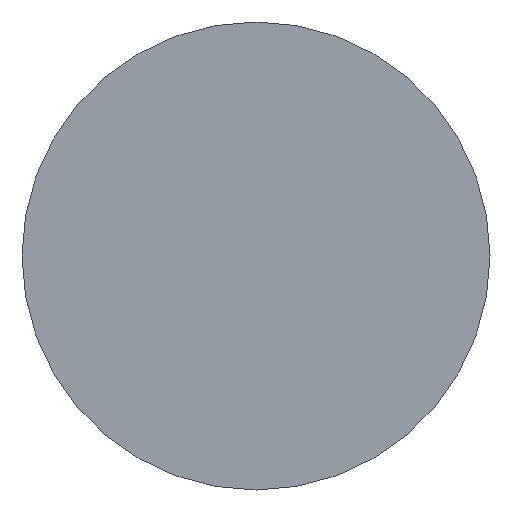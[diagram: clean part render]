
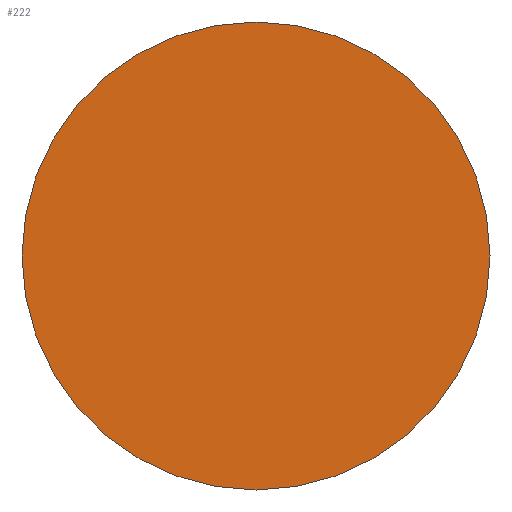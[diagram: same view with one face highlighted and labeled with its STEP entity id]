
A CAD part, left-side view. The second image highlights one B-rep face of the part: STEP entity #222.
In plain terms, the highlighted planar face has unit normal (-1, 0, 0).
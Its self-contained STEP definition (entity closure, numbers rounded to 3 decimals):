
#7 = EDGE_LOOP ( 'NONE', ( #125, #148 ) ) ;
#22 = VERTEX_POINT ( 'NONE', #208 ) ;
#27 = DIRECTION ( 'NONE',  ( 0., -1., 0. ) ) ;
#50 = DIRECTION ( 'NONE',  ( 1., 0., 0. ) ) ;
#58 = PLANE ( 'NONE',  #171 ) ;
#74 = AXIS2_PLACEMENT_3D ( 'NONE', #80, #163, #200 ) ;
#80 = CARTESIAN_POINT ( 'NONE',  ( 0., 0., 0. ) ) ;
#97 = CARTESIAN_POINT ( 'NONE',  ( 0., 0., 0. ) ) ;
#125 = ORIENTED_EDGE ( 'NONE', *, *, #156, .F. ) ;
#138 = FACE_OUTER_BOUND ( 'NONE', #7, .T. ) ;
#148 = ORIENTED_EDGE ( 'NONE', *, *, #199, .F. ) ;
#152 = CARTESIAN_POINT ( 'NONE',  ( 0., 2., 0. ) ) ;
#155 = CIRCLE ( 'NONE', #185, 2. ) ;
#156 = EDGE_CURVE ( 'NONE', #263, #22, #256, .T. ) ;
#159 = CARTESIAN_POINT ( 'NONE',  ( 0., 0., 0. ) ) ;
#163 = DIRECTION ( 'NONE',  ( 1., 0., 0. ) ) ;
#171 = AXIS2_PLACEMENT_3D ( 'NONE', #159, #197, #27 ) ;
#185 = AXIS2_PLACEMENT_3D ( 'NONE', #97, #50, #215 ) ;
#197 = DIRECTION ( 'NONE',  ( -1., 0., 0. ) ) ;
#199 = EDGE_CURVE ( 'NONE', #22, #263, #155, .T. ) ;
#200 = DIRECTION ( 'NONE',  ( 0., 1., 0. ) ) ;
#208 = CARTESIAN_POINT ( 'NONE',  ( 0., -2., 0. ) ) ;
#215 = DIRECTION ( 'NONE',  ( 0., 1., 0. ) ) ;
#222 = ADVANCED_FACE ( 'NONE', ( #138 ), #58, .T. ) ;
#256 = CIRCLE ( 'NONE', #74, 2. ) ;
#263 = VERTEX_POINT ( 'NONE', #152 ) ;
